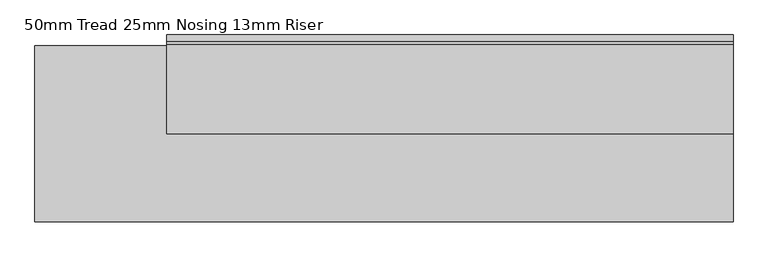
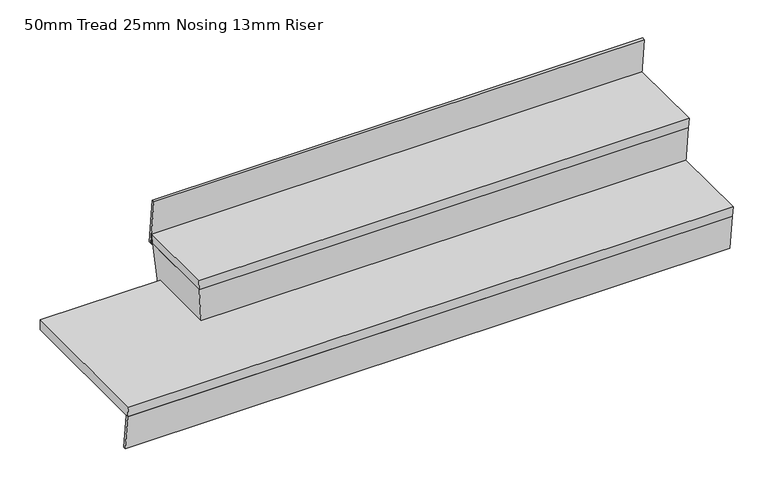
"""IFC4 building model written with IfcOpenShell, lengths in millimetres: stair flight geometry, 50mm Tread 25mm Nosing 13mm Riser."""

from ifc_helpers import new_model, si_unit, origin, place, context, project, spatial, faceted_brep, source, transform, mapped, element, save


def stair_flight_50mm_tread_25mm_nosing_13mm_riser_2b7aec5b(model_context):
    return source(origin(), model_context, "Body", "Brep", [
        faceted_brep([(17707.8517773, -2103.5090595, -440.2666667), (17707.8517773, -2097.8306827, -490.2666667), (15452.5301541, -2097.8306827, -490.2666667), (15446.8517773, -2103.5090595, -440.2666667), (15452.5301541, -1772.9090595, -490.2666667), (15446.8517773, -1772.9090595, -440.2666667), (14888.4517773, -1772.9090595, -440.2666667), (14888.4517773, -2484.1090595, -440.2666667), (17707.8517773, -2484.1090595, -440.2666667), (17707.8517773, -2478.4306827, -490.2666667), (14888.4517773, -2478.4306827, -490.2666667), (14888.4517773, -1772.9090595, -490.2666667)], [[[0, 1, 2, 3]], [[3, 2, 4, 5]], [[5, 6, 7, 8, 0, 3]], [[2, 1, 9, 10, 11, 4]], [[6, 5, 4, 11]], [[0, 8, 9, 1]], [[8, 7, 10, 9]], [[7, 6, 11, 10]]]),
        faceted_brep([(17707.8517773, -2478.4306827, -490.2666667), (17707.8517773, -2459.1090595, -660.4), (17707.8517773, -2446.5287078, -660.4), (17707.8517773, -2465.8503311, -490.2666667), (14888.4517773, -2478.4306827, -490.2666667), (14888.4517773, -2465.8503311, -490.2666667), (14888.4517773, -2446.5287078, -660.4), (14888.4517773, -2459.1090595, -660.4)], [[[0, 1, 2, 3]], [[4, 5, 6, 7]], [[1, 0, 4, 7]], [[2, 1, 7, 6]], [[3, 2, 6, 5]], [[0, 3, 5, 4]]]),
        faceted_brep([(17707.8517773, -2122.8306827, -270.1333333), (17707.8517773, -2097.8306827, -490.2666667), (17707.8517773, -2085.2503311, -490.2666667), (17707.8517773, -2110.2503311, -270.1333333), (15427.5301541, -2122.8306827, -270.1333333), (15452.5301541, -2097.8306827, -490.2666667), (15465.1105057, -2085.2503311, -490.2666667), (15440.1105057, -2110.2503311, -270.1333333), (15427.5301541, -1747.9090595, -270.1333333), (15440.1105057, -1747.9090595, -270.1333333), (15465.1105057, -1747.9090595, -490.2666667), (15452.5301541, -1747.9090595, -490.2666667)], [[[0, 1, 2, 3]], [[1, 0, 4, 5]], [[2, 1, 5, 6]], [[3, 2, 6, 7]], [[0, 3, 7, 4]], [[8, 9, 10, 11]], [[5, 4, 8, 11]], [[6, 5, 11, 10]], [[7, 6, 10, 9]], [[4, 7, 9, 8]]]),
        faceted_brep([(17707.8517773, -1767.2306827, -50.0), (17707.8517773, -1742.2306827, -270.1333333), (17707.8517773, -1729.6503311, -270.1333333), (17707.8517773, -1754.6503311, -50.0), (15421.8517773, -1767.2306827, -50.0), (15421.8517773, -1754.6503311, -50.0), (15421.8517773, -1729.6503311, -270.1333333), (15421.8517773, -1742.2306827, -270.1333333)], [[[0, 1, 2, 3]], [[4, 5, 6, 7]], [[1, 0, 4, 7]], [[2, 1, 7, 6]], [[3, 2, 6, 5]], [[0, 3, 5, 4]]]),
        faceted_brep([(17707.8517773, -2128.5090595, -220.1333333), (17707.8517773, -1747.9090595, -220.1333333), (15421.8517773, -1747.9090595, -220.1333333), (15421.8517773, -2128.5090595, -220.1333333), (15421.8517773, -1742.2306827, -270.1333333), (17707.8517773, -1742.2306827, -270.1333333), (17707.8517773, -2122.8306827, -270.1333333), (15427.5301541, -2122.8306827, -270.1333333), (15427.5301541, -1747.9090595, -270.1333333), (15421.8517773, -1747.9090595, -270.1333333)], [[[0, 1, 2, 3]], [[4, 5, 6, 7, 8, 9]], [[1, 0, 6, 5]], [[1, 5, 4, 2]], [[3, 7, 6, 0]], [[7, 3, 2, 8]], [[2, 4, 9]], [[8, 2, 9]]]),
    ])


if __name__ == "__main__":
    model = new_model("IFC4")
    model_context = context("Model", 3, world=origin())
    ifc_project = project(units=[si_unit("LENGTHUNIT", "METRE", prefix="MILLI")], contexts=[model_context])
    site = spatial("IfcSite", under=ifc_project)
    building = spatial("IfcBuilding", under=site)
    placement = place(None, origin())
    stair_flight_50mm_tread_25mm_nosing_13mm_riser_shape = stair_flight_50mm_tread_25mm_nosing_13mm_riser_2b7aec5b(model_context)
    element("IfcStairFlight", 1, ObjectType="50mm Tread 25mm Nosing 13mm Riser", at=placement, inside=building, context=model_context, shape_type="MappedRepresentation", body=[
        mapped(stair_flight_50mm_tread_25mm_nosing_13mm_riser_shape, transform((0.0, 0.0, 0.0), x_axis=(1.0, 0.0, 0.0), y_axis=(0.0, 1.0, 0.0), z_axis=(0.0, 0.0, 1.0))),
    ])
    save(model, "model.ifc")
